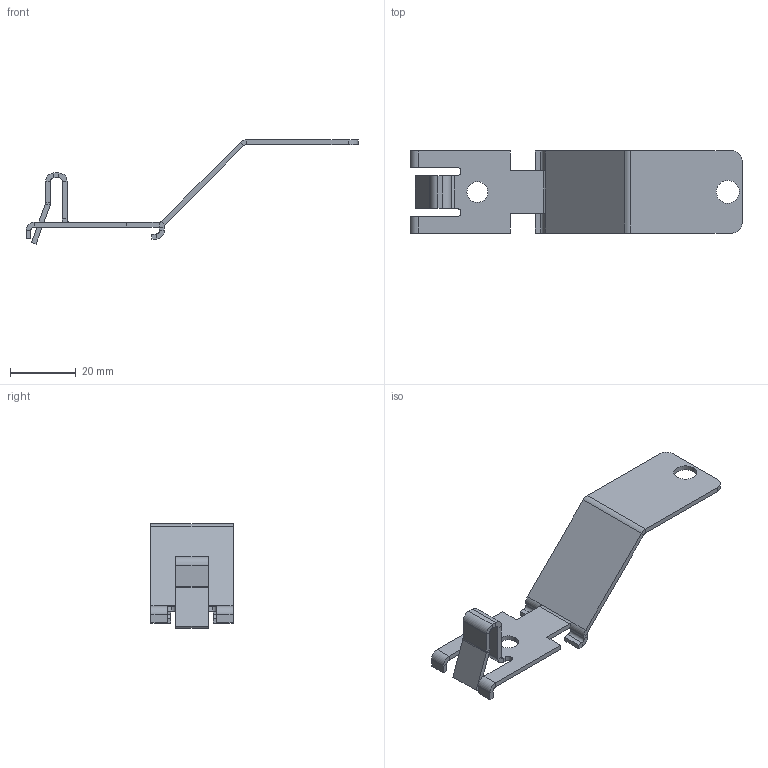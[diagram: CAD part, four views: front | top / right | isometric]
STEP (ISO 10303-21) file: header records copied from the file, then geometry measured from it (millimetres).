
FILE_DESCRIPTION (( 'STEP AP203' ), '1' );
FILE_NAME ('04205.STEP', '2018-01-19T14:33:46', ( '' ), ( '' ), 'SwSTEP 2.0', 'SolidWorks 2015', '' );
FILE_SCHEMA (( 'CONFIG_CONTROL_DESIGN' ));
Length unit declared in the file: millimetre
Products named in the file (1): 04205
Bounding box: 100.96 x 25 x 31.7 mm (x, y, z)
Volume: 4310.6 mm3; surface area: 6479.3 mm2
Topology: 1 solids, 1 shells, 124 faces, 270 edges, 148 vertices
Faces by surface type: plane 90, cylinder 34
Entity records: 3339 total; most frequent: DIRECTION 588, CARTESIAN_POINT 543, ORIENTED_EDGE 540, EDGE_CURVE 270, VECTOR 202, LINE 202, AXIS2_PLACEMENT_3D 193, VERTEX_POINT 148
